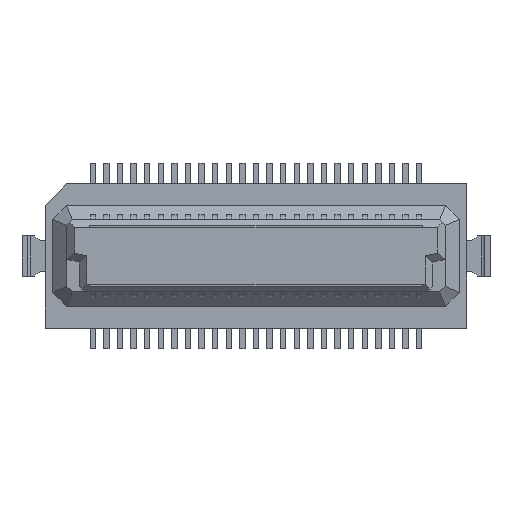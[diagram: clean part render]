
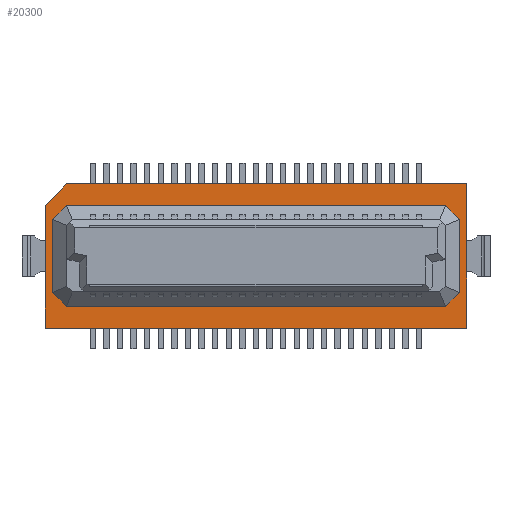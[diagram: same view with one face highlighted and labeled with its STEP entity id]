
A CAD part, top view. The second image highlights one B-rep face of the part: STEP entity #20300.
In plain terms, the highlighted planar face has unit normal (0, 0, 1).
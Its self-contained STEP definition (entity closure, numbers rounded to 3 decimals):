
#17780=CARTESIAN_POINT('',(49.341,-3.891,0.8)
);
#17790=VERTEX_POINT('',#17780);
#17820=CARTESIAN_POINT('',(48.623,-3.891,0.8));
#17830=DIRECTION('',(-1.,0.,0.));
#17840=VECTOR('',#17830,1.);
#17850=LINE('',#17820,#17840);
#17860=CARTESIAN_POINT('',(35.406,-3.891,0.8)
);
#17870=VERTEX_POINT('',#17860);
#17880=EDGE_CURVE('',#17790,#17870,#17850,.T.);
#18670=CARTESIAN_POINT('',(34.898,-0.698,
0.8));
#18680=VERTEX_POINT('',#18670);
#18710=CARTESIAN_POINT('',(34.889,-0.707,
0.8));
#18720=DIRECTION('',(0.707,0.707,0.));
#18730=VECTOR('',#18720,1.);
#18740=LINE('',#18710,#18730);
#18750=CARTESIAN_POINT('',(35.406,-0.191,
0.8));
#18760=VERTEX_POINT('',#18750);
#18770=EDGE_CURVE('',#18680,#18760,#18740,.T.);
#18980=CARTESIAN_POINT('',(34.898,-3.383,0.8
));
#18990=VERTEX_POINT('',#18980);
#19020=CARTESIAN_POINT('',(34.898,-2.041,0.8));
#19030=DIRECTION('',(0.,1.,0.));
#19040=VECTOR('',#19030,1.);
#19050=LINE('',#19020,#19040);
#19060=EDGE_CURVE('',#18990,#18680,#19050,.T.);
#19190=CARTESIAN_POINT('',(34.889,-3.375,
0.8));
#19200=DIRECTION('',(-0.707,0.707,0.));
#19210=VECTOR('',#19200,1.);
#19220=LINE('',#19190,#19210);
#19230=EDGE_CURVE('',#17870,#18990,#19220,.T.);
#19470=CARTESIAN_POINT('',(45.823,-4.823,0.8));
#19480=DIRECTION('',(0.,0.,1.));
#19490=DIRECTION('',(1.,0.,0.));
#19500=AXIS2_PLACEMENT_3D('',#19470,#19480,#19490);
#19510=PLANE('',#19500);
#19520=CARTESIAN_POINT('',(34.623,0.,0.8));
#19530=DIRECTION('',(0.,1.,0.));
#19540=VECTOR('',#19530,1.);
#19550=LINE('',#19520,#19540);
#19560=CARTESIAN_POINT('',(34.623,-4.691,0.8));
#19570=VERTEX_POINT('',#19560);
#19580=CARTESIAN_POINT('',(34.623,-0.191,
0.8));
#19590=VERTEX_POINT('',#19580);
#19600=EDGE_CURVE('',#19570,#19590,#19550,.T.);
#19610=ORIENTED_EDGE('',*,*,#19600,.F.);
#19620=CARTESIAN_POINT('',(17.5,-17.314,0.8));
#19630=DIRECTION('',(0.707,0.707,0.));
#19640=VECTOR('',#19630,1.);
#19650=LINE('',#19620,#19640);
#19660=CARTESIAN_POINT('',(35.423,0.609,0.8));
#19670=VERTEX_POINT('',#19660);
#19680=EDGE_CURVE('',#19590,#19670,#19650,.T.);
#19690=ORIENTED_EDGE('',*,*,#19680,.F.);
#19700=CARTESIAN_POINT('',(5.,0.609,0.8));
#19710=DIRECTION('',(1.,0.,0.));
#19720=VECTOR('',#19710,1.);
#19730=LINE('',#19700,#19720);
#19740=CARTESIAN_POINT('',(50.123,0.609,0.8));
#19750=VERTEX_POINT('',#19740);
#19760=EDGE_CURVE('',#19670,#19750,#19730,.T.);
#19770=ORIENTED_EDGE('',*,*,#19760,.F.);
#19780=CARTESIAN_POINT('',(50.123,0.,0.8));
#19790=DIRECTION('',(0.,-1.,0.));
#19800=VECTOR('',#19790,1.);
#19810=LINE('',#19780,#19800);
#19820=CARTESIAN_POINT('',(50.123,-4.691,0.8));
#19830=VERTEX_POINT('',#19820);
#19840=EDGE_CURVE('',#19750,#19830,#19810,.T.);
#19850=ORIENTED_EDGE('',*,*,#19840,.F.);
#19860=CARTESIAN_POINT('',(17.5,-4.691,0.8));
#19870=DIRECTION('',(-1.,0.,0.));
#19880=VECTOR('',#19870,1.);
#19890=LINE('',#19860,#19880);
#19900=EDGE_CURVE('',#19830,#19570,#19890,.T.);
#19910=ORIENTED_EDGE('',*,*,#19900,.F.);
#19920=EDGE_LOOP('',(#19910,#19850,#19770,#19690,#19610));
#19930=FACE_OUTER_BOUND('',#19920,.T.);
#19940=CARTESIAN_POINT('',(49.594,-3.637,
0.8));
#19950=DIRECTION('',(-0.707,-0.707,0.));
#19960=VECTOR('',#19950,1.);
#19970=LINE('',#19940,#19960);
#19980=CARTESIAN_POINT('',(49.848,-3.383,0.8
));
#19990=VERTEX_POINT('',#19980);
#20000=EDGE_CURVE('',#19990,#17790,#19970,.T.);
#20010=ORIENTED_EDGE('',*,*,#20000,.T.);
#20020=CARTESIAN_POINT('',(49.848,-2.041,0.8
));
#20030=DIRECTION('',(0.,-1.,0.));
#20040=VECTOR('',#20030,1.);
#20050=LINE('',#20020,#20040);
#20060=CARTESIAN_POINT('',(49.848,-0.698,
0.8));
#20070=VERTEX_POINT('',#20060);
#20080=EDGE_CURVE('',#20070,#19990,#20050,.T.);
#20090=ORIENTED_EDGE('',*,*,#20080,.T.);
#20100=CARTESIAN_POINT('',(49.332,-0.182,
0.8));
#20110=DIRECTION('',(0.707,-0.707,0.));
#20120=VECTOR('',#20110,1.);
#20130=LINE('',#20100,#20120);
#20140=CARTESIAN_POINT('',(49.341,-0.191,
0.8));
#20150=VERTEX_POINT('',#20140);
#20160=EDGE_CURVE('',#20150,#20070,#20130,.T.);
#20170=ORIENTED_EDGE('',*,*,#20160,.T.);
#20180=CARTESIAN_POINT('',(36.123,-0.191,
0.8));
#20190=DIRECTION('',(1.,0.,0.));
#20200=VECTOR('',#20190,1.);
#20210=LINE('',#20180,#20200);
#20220=EDGE_CURVE('',#18760,#20150,#20210,.T.);
#20230=ORIENTED_EDGE('',*,*,#20220,.T.);
#20240=ORIENTED_EDGE('',*,*,#18770,.T.);
#20250=ORIENTED_EDGE('',*,*,#19060,.T.);
#20260=ORIENTED_EDGE('',*,*,#19230,.T.);
#20270=ORIENTED_EDGE('',*,*,#17880,.T.);
#20280=EDGE_LOOP('',(#20270,#20260,#20250,#20240,#20230,#20170,#20090,
#20010));
#20290=FACE_BOUND('',#20280,.T.);
#20300=ADVANCED_FACE('',(#19930,#20290),#19510,.T.);
